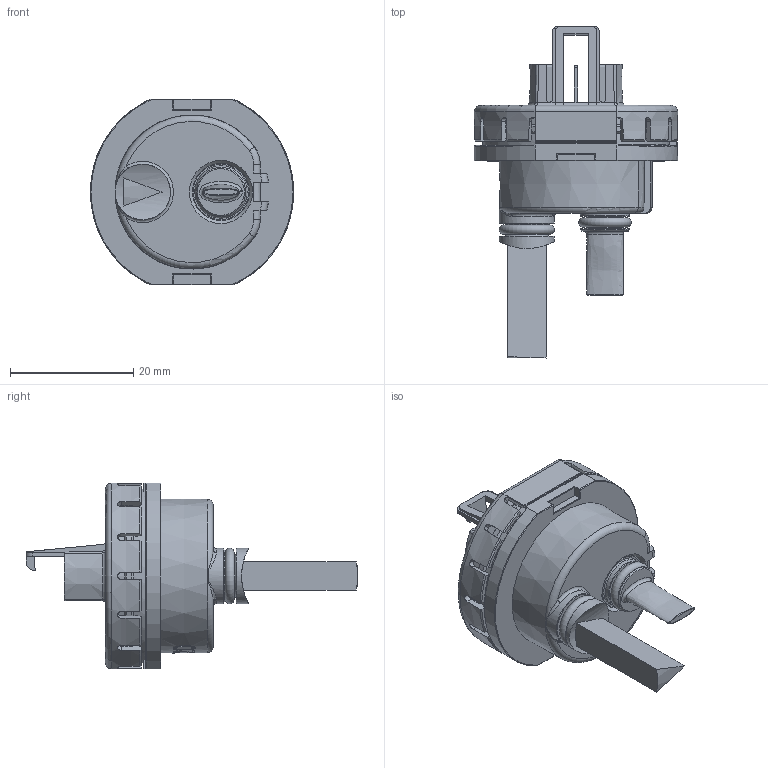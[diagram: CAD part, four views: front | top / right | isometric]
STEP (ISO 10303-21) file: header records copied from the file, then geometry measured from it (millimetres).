
FILE_DESCRIPTION(/* description */ (''),/* implementation_level */ '2;1');
FILE_NAME(/* name */ '201.x20x3x.stp',/* time_stamp */ '2024-05-22T14:27:03+02:00',/* author */ ('uch10180'),/* organization */ (''),/* preprocessor_version */ 'ST-DEVELOPER v19.2',/* originating_system */ 'Autodesk Inventor 2023',/* authorisation */ '');
FILE_SCHEMA (('CONFIG_CONTROL_DESIGN'));
Length unit declared in the file: millimetre
Products named in the file (3): 201.x20x3x; vi7160u9xv; 305927_112741
Assembly tree (2 placements, depth 2):
  201.x20x3x
    vi7160u9xv
    305927_112741
Bounding box: 33 x 53.9 x 30.2 mm (x, y, z)
Volume: 12333.8 mm3; surface area: 6285.6 mm2
Topology: 3 solids, 4 shells, 702 faces, 1889 edges, 1212 vertices
Faces by surface type: plane 364, cylinder 170, bspline 79, cone 54, torus 31, sphere 4
Full cylindrical faces by diameter (mm): 1.145 x2, 5.76 x1, 6.7 x1, 7.98 x2, 8.98 x3, 9.25 x1
Entity records: 28385 total; most frequent: CARTESIAN_POINT 10297, ORIENTED_EDGE 3770, DIRECTION 3461, EDGE_CURVE 1885, VERTEX_POINT 1212, AXIS2_PLACEMENT_3D 1199, LINE 1063, VECTOR 1063
